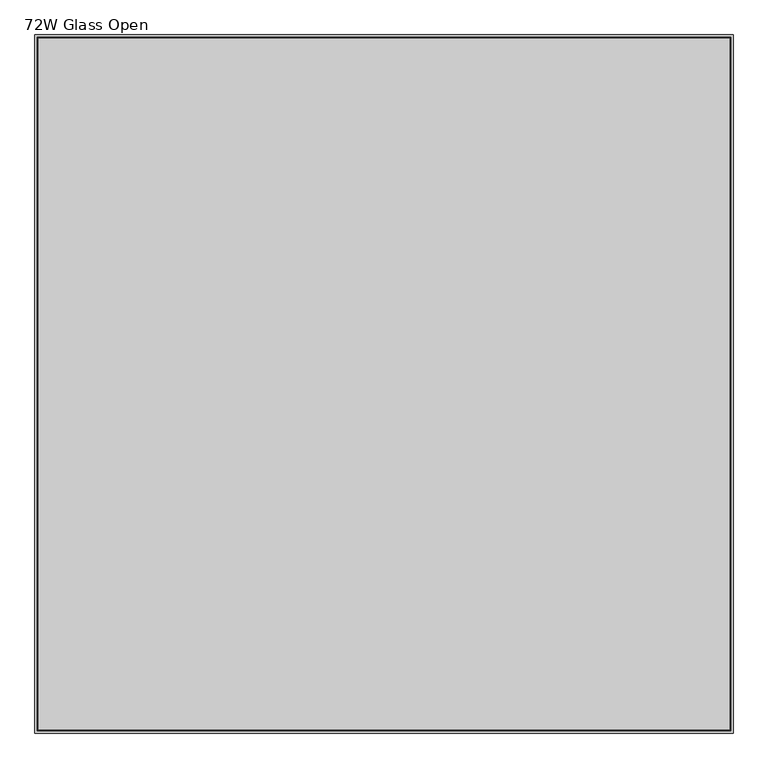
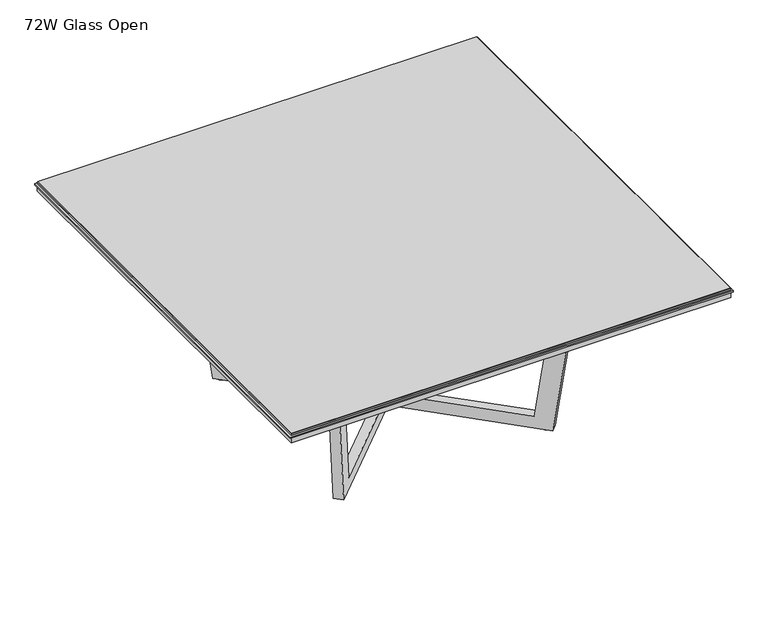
"""IFC4 building model written with IfcOpenShell, lengths in millimetres: furniture geometry, Knoll_Datesweiser_Tables_Meeting_Highline_Square : 72W Glass Open."""

from ifc_helpers import new_model, si_unit, point, frame, frame_2d, origin, origin_with_axes, place, context, project, spatial, polyline, circle_curve, trimmed, segment, composite_curve, outline, extrude, faceted_brep, source, transform, mapped, element, save


def furniture_72w_glass_open_69eb700f(model_context):
    return source(origin(), model_context, "Body", "SolidModel", [
        extrude(outline(polyline([(914.4, 914.4), (914.4, -914.4), (-914.4, -914.4), (-914.4, 914.4), (914.4, 914.4)])), frame((0.0, 0.0, 698.5), z_axis=(0.0, 0.0, 1.0), x_axis=(1.0, 0.0, 0.0)), (0.0, 0.0, 1.0), 25.4),
        extrude(outline(polyline([(920.75, 920.75), (920.75, -920.75), (-920.75, -920.75), (-920.75, 920.75), (920.75, 920.75)])), frame((0.0, 0.0, 723.9), z_axis=(0.0, 0.0, 1.0), x_axis=(1.0, 0.0, 0.0)), (0.0, 0.0, 1.0), 6.35),
        faceted_brep([(-914.4, 914.4, 738.759), (-914.4, 914.4, 731.266), (-914.4, -914.4, 731.266), (-914.4, -914.4, 738.759), (-913.384, -913.384, 739.775), (-913.384, 913.384, 739.775), (-913.384, 913.384, 730.25), (-913.384, -913.384, 730.25), (914.4, -914.4, 731.266), (914.4, -914.4, 738.759), (913.384, -913.384, 739.775), (913.384, -913.384, 730.25), (914.4, 914.4, 731.266), (914.4, 914.4, 738.759), (913.384, 913.384, 739.775), (913.384, 913.384, 730.25)], [[[0, 1, 2, 3]], [[0, 3, 4, 5]], [[2, 1, 6, 7]], [[3, 2, 8, 9]], [[4, 3, 9, 10]], [[2, 7, 11, 8]], [[9, 8, 12, 13]], [[10, 9, 13, 14]], [[8, 11, 15, 12]], [[1, 0, 13, 12]], [[0, 5, 14, 13]], [[6, 1, 12, 15]], [[5, 4, 10, 14]], [[7, 6, 15, 11]]]),
        extrude(outline(composite_curve([segment(trimmed(circle_curve(frame_2d((-430.2420161, -430.2420161)), 12.7), [point((-417.5420161, -430.2420161))], [point((-442.9420161, -430.2420161))], False, "CARTESIAN"), True, "CONTINUOUS"), segment(trimmed(circle_curve(frame_2d((-430.2420161, -430.2420161)), 12.7), [point((-442.9420161, -430.2420161))], [point((-417.5420161, -430.2420161))], False, "CARTESIAN"), True, "CONTINUOUS")], self_intersect=False)), origin_with_axes(), (0.0, 0.0, 1.0), 5.9867797),
        extrude(outline(composite_curve([segment(trimmed(circle_curve(frame_2d((-430.2420161, 430.2420161)), 12.7), [point((-417.5420161, 430.2420161))], [point((-442.9420161, 430.2420161))], False, "CARTESIAN"), True, "CONTINUOUS"), segment(trimmed(circle_curve(frame_2d((-430.2420161, 430.2420161)), 12.7), [point((-442.9420161, 430.2420161))], [point((-417.5420161, 430.2420161))], False, "CARTESIAN"), True, "CONTINUOUS")], self_intersect=False)), origin_with_axes(), (0.0, 0.0, 1.0), 5.9867797),
        extrude(outline(composite_curve([segment(trimmed(circle_curve(frame_2d((430.2420161, -430.2420161)), 12.7), [point((442.9420161, -430.2420161))], [point((417.5420161, -430.2420161))], False, "CARTESIAN"), True, "CONTINUOUS"), segment(trimmed(circle_curve(frame_2d((430.2420161, -430.2420161)), 12.7), [point((417.5420161, -430.2420161))], [point((442.9420161, -430.2420161))], False, "CARTESIAN"), True, "CONTINUOUS")], self_intersect=False)), origin_with_axes(), (0.0, 0.0, 1.0), 5.9867797),
        extrude(outline(composite_curve([segment(trimmed(circle_curve(frame_2d((430.2420161, 430.2420161)), 12.7), [point((442.9420161, 430.2420161))], [point((417.5420161, 430.2420161))], False, "CARTESIAN"), True, "CONTINUOUS"), segment(trimmed(circle_curve(frame_2d((430.2420161, 430.2420161)), 12.7), [point((417.5420161, 430.2420161))], [point((442.9420161, 430.2420161))], False, "CARTESIAN"), True, "CONTINUOUS")], self_intersect=False)), origin_with_axes(), (0.0, 0.0, 1.0), 5.9867797),
        extrude(outline(polyline([(633.7990639, 0.0), (1267.5960015, 1.6418154), (1365.8753618, -691.1402556), (1289.3280631, -691.2394011), (1198.2722297, -49.376762), (633.8639645, -50.1077947), (69.4556995, -50.8388274), (-19.937125, -692.9351873), (-96.4844236, -693.0343328), (0.0, 0.0), (633.7990639, 0.0)])), frame((-461.3328396, 434.6928596, 5.5912411), z_axis=(0.7071067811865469, 0.7071067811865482, 0.0), x_axis=(0.707106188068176, -0.7071061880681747, 0.0012952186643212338)), (0.0, 0.0, 1.0), 37.6746211),
        extrude(outline(polyline([(633.799064, 0.0), (1267.5960015, 1.6418154), (1365.8753618, -691.1402556), (1289.3280632, -691.2394011), (1198.2722297, -49.376762), (633.8639646, -50.1077947), (69.4556995, -50.8388274), (-19.9371249, -692.9351873), (-96.4844235, -693.0343328), (0.0, 0.0), (633.799064, 0.0)])), frame((-434.6928596, -461.6336207, 5.5912411), z_axis=(-0.707106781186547, 0.7071067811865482, 0.0), x_axis=(0.7071061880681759, 0.7071061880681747, 0.0012952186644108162)), (0.0, 0.0, 1.0), 37.6746211),
    ])


if __name__ == "__main__":
    model = new_model("IFC4")
    model_context = context("Model", 3, world=origin())
    ifc_project = project(units=[si_unit("LENGTHUNIT", "METRE", prefix="MILLI")], contexts=[model_context])
    site = spatial("IfcSite", under=ifc_project)
    building = spatial("IfcBuilding", under=site)
    placement = place(None, origin())
    furniture_72w_glass_open_shape = furniture_72w_glass_open_69eb700f(model_context)
    element("IfcFurniture", 1, ObjectType="Knoll_Datesweiser_Tables_Meeting_Highline_Square : 72W Glass Open", at=placement, inside=building, context=model_context, shape_type="MappedRepresentation", body=[
        mapped(furniture_72w_glass_open_shape, transform((0.0, 0.0, 0.0), x_axis=(1.0, 0.0, 0.0), y_axis=(0.0, 1.0, 0.0), z_axis=(0.0, 0.0, 1.0))),
    ])
    save(model, "model.ifc")
